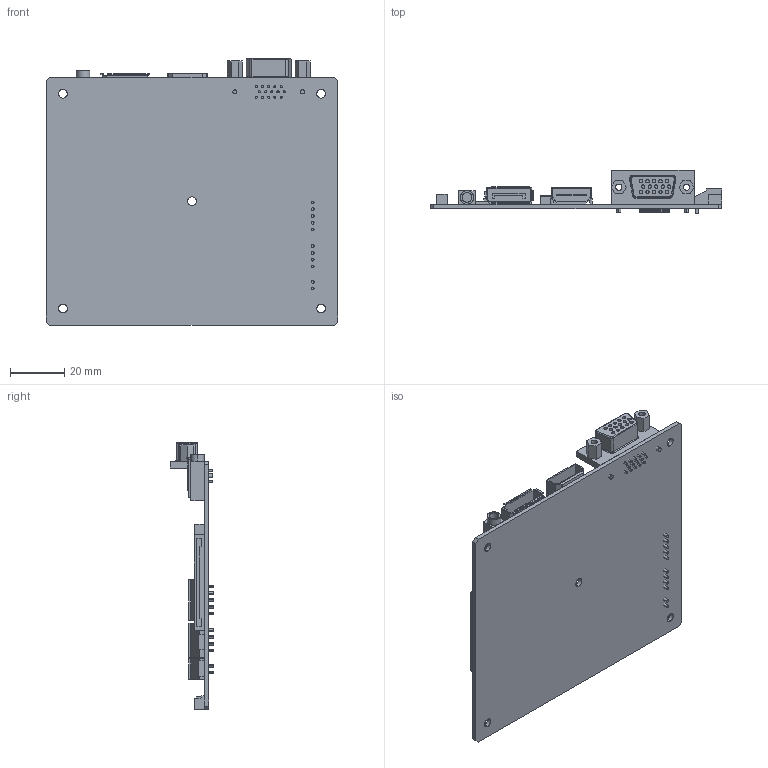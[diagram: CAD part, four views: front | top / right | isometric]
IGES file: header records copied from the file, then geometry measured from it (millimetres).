
Start section: SolidWorks IGES file using analytic representation for surfaces
Global section: file name: F:\DV 3D PCBs\ALT-1920 PCB Files 220131\release files 220131\Assy PCB ALT-1920 220131.IGS; native system: SolidWorks 2021; preprocessor: SolidWorks 2021; author: MH2; date: 220131.120308; units: inch
Bounding box: 107.44 x 15.95 x 98.47 mm (x, y, z)
Surface area: 31176.7 mm2 (no closed solid volume)
Topology: 0 solids, 0 shells, 796 faces, 5960 edges, 5960 vertices
Faces by surface type: bspline 647, revolution 149
